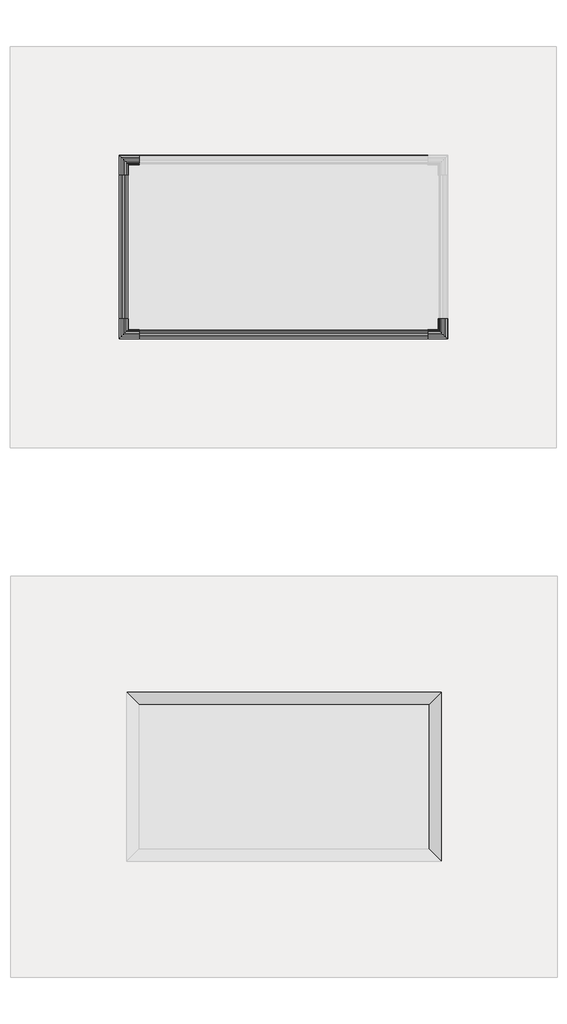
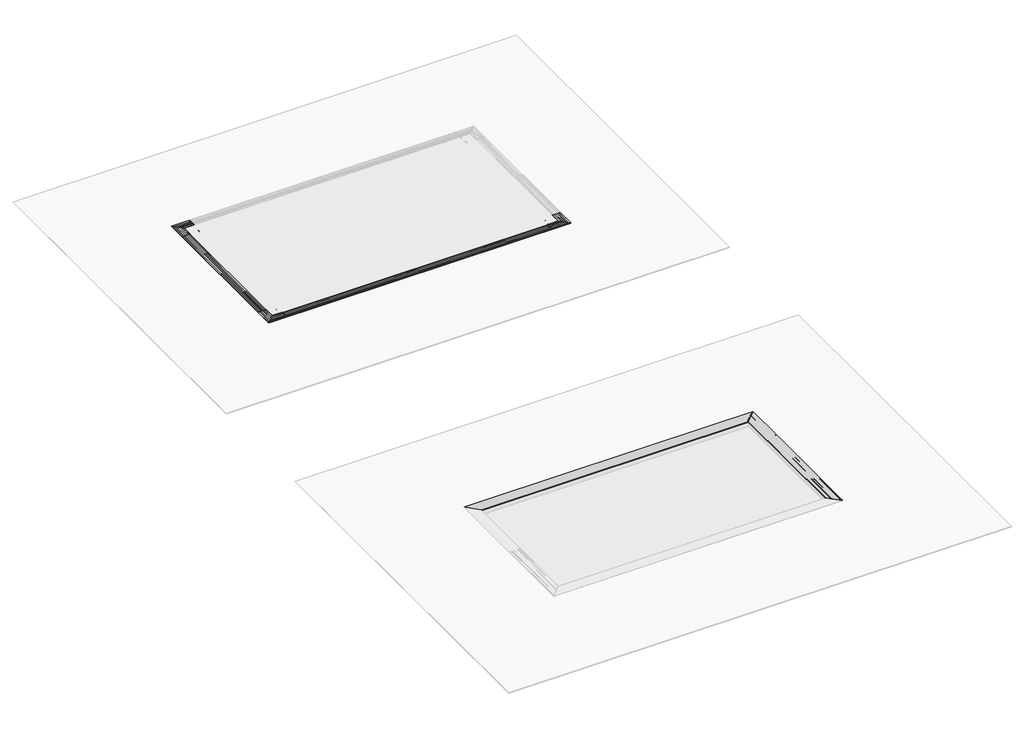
# One storey, part 3 of 8: 25 proxies.
"""IFC4 building model written with IfcOpenShell, lengths in millimetres."""

from ifc_helpers import new_model, si_unit, point, frame, frame_2d, origin, place, context, project, spatial, polyline, circle_curve, trimmed, segment, composite_curve, outline, extrude, faceted_brep, transform, mapped, element, save
from components import roca_polar_33x4cm_fa50347c, roca_polar_33x4cm_adeb31d8, roca_polar_33x4cm_aab84ab9, roca_polar_33x4cm_158b5dbd, roca_polar_33x4cm_2f643e7a, roca_polar_33x4cm_c740a98f, roca_polar_33x4cm_80985e4a, roca_polar_4x4cm_b0f7cce5, roca_polar_angulo_33x33cm_rejilla_24_5x33cm_6b5bcf94

model = new_model("IFC4")

# Units and contexts
model_context = context("Model", 3, world=origin())
ifc_project = project(units=[si_unit("LENGTHUNIT", "METRE", prefix="MILLI")], contexts=[model_context])

# Site, building, storey
site = spatial("IfcSite", under=ifc_project)
building = spatial("IfcBuilding", under=site)
storey = spatial("IfcBuildingStorey", under=building, Name="EXAGRES_Serie ROCA POLAR_Piscinas_ejemplo", Elevation=14000.0)

# Proxies
placement = place(None, origin())
element("IfcBuildingElementProxy", 1, Name="Wall Sweeps", at=placement, inside=storey, context=model_context, shape_type="SweptSolid", body=[
    extrude(outline(polyline([(-5317.8185886, 13800.0), (-5127.8185886, 13800.0), (-5127.8185886, 14000.0), (-5097.8185886, 14000.0), (-5097.8185886, 13750.0), (-5347.8185886, 13750.0), (-5347.8185886, 14000.0), (-5317.8185886, 14000.0), (-5317.8185886, 13800.0)])), frame((-11634.1797103, 0.0, 0.0), z_axis=(1.0, 0.0, 0.0), x_axis=(0.0, 1.0, 0.0)), (0.0, 0.0, 1.0), 7952.2),
])
element("IfcBuildingElementProxy", 2, Name="Wall Sweeps", at=placement, inside=storey, context=model_context, shape_type="SweptSolid", body=[
    extrude(outline(polyline([(-9937.8185886, 13800.0), (-9937.8185886, 14000.0), (-9907.8185886, 14000.0), (-9907.8185886, 13750.0), (-10157.8185886, 13750.0), (-10157.8185886, 14000.0), (-10127.8185886, 14000.0), (-10127.8185886, 13800.0), (-9937.8185886, 13800.0)])), frame((-11634.1797103, 0.0, 0.0), z_axis=(1.0, 0.0, 0.0), x_axis=(0.0, 1.0, 0.0)), (0.0, 0.0, 1.0), 7952.2),
])
element("IfcBuildingElementProxy", 3, Name="Wall Sweeps", at=placement, inside=storey, context=model_context, shape_type="SweptSolid", body=[
    extrude(outline(composite_curve([segment(trimmed(circle_curve(frame_2d((-10107.8185886, 14000.0)), 15.0), [point((-10107.8185886, 14015.0))], [point((-10122.8185886, 14000.0))], True, "CARTESIAN"), True, "CONTINUOUS"), segment(polyline([(-10122.8185886, 14000.0), (-10152.8185886, 14000.0), (-10152.8185886, 14011.0), (-10130.3185886, 14011.0), (-10130.3185886, 14019.0), (-10148.8185886, 14019.0), (-10148.8185886, 14030.0), (-10109.3185886, 14030.0), (-10109.3185886, 14025.0), (-10101.3185886, 14025.0), (-10101.3185886, 14030.0), (-10061.8185886, 14030.0), (-10062.8185886, 14019.0), (-10067.8185886, 14019.0), (-10067.8185886, 14011.0), (-10047.8185886, 14011.0), (-10047.8185886, 14019.0), (-10052.8185886, 14019.0), (-10053.8185886, 14030.0), (-10014.3185886, 14030.0), (-10014.3185886, 14025.0), (-10006.3185886, 14025.0), (-10006.3185886, 14030.0), (-9966.8185886, 14030.0), (-9967.8185886, 14019.0), (-9972.8185886, 14019.0), (-9972.8185886, 14011.0), (-9952.8185886, 14011.0), (-9952.8185886, 14019.0), (-9957.8185886, 14019.0), (-9958.8185886, 14030.0), (-9919.3185886, 14030.0), (-9912.8185886, 14015.0), (-9912.8185886, 14000.0), (-9924.8185886, 14000.0), (-9924.8185886, 14011.0)]), True, "CONTINUOUS"), segment(trimmed(circle_curve(frame_2d((-9928.5685886, 14011.0)), 3.75), [point((-9924.8185886, 14011.0))], [point((-9932.3185886, 14011.0))], True, "CARTESIAN"), True, "CONTINUOUS"), segment(polyline([(-9932.3185886, 14011.0), (-9932.3185886, 14000.0), (-9992.8185886, 14000.0)]), True, "CONTINUOUS"), segment(trimmed(circle_curve(frame_2d((-10007.8185886, 14000.0)), 15.0), [point((-9992.8185886, 14000.0))], [point((-10007.8185886, 14015.0))], True, "CARTESIAN"), True, "CONTINUOUS"), segment(polyline([(-10007.8185886, 14015.0), (-10012.8185886, 14015.0)]), True, "CONTINUOUS"), segment(trimmed(circle_curve(frame_2d((-10012.8185886, 14000.0)), 15.0), [point((-10012.8185886, 14015.0))], [point((-10027.8185886, 14000.0))], True, "CARTESIAN"), True, "CONTINUOUS"), segment(polyline([(-10027.8185886, 14000.0), (-10087.8185886, 14000.0)]), True, "CONTINUOUS"), segment(trimmed(circle_curve(frame_2d((-10102.8185886, 14000.0)), 15.0), [point((-10087.8185886, 14000.0))], [point((-10102.8185886, 14015.0))], True, "CARTESIAN"), True, "CONTINUOUS"), segment(polyline([(-10102.8185886, 14015.0), (-10107.8185886, 14015.0)]), True, "CONTINUOUS")], self_intersect=False)), frame((-11634.1797103, 0.0, 0.0), z_axis=(1.0, 0.0, 0.0), x_axis=(0.0, 1.0, 0.0)), (0.0, 0.0, 1.0), 7952.2),
])
element("IfcBuildingElementProxy", 4, Name="Wall Sweeps", at=placement, inside=storey, context=model_context, shape_type="SweptSolid", body=[
    extrude(outline(polyline([(-9657.8185886, 13546.2592037), (-9857.8185886, 13546.2592037), (-10157.8185886, 13644.7108891), (-10157.8185886, 13750.0), (-9907.8185886, 13750.0), (-9907.8185886, 14000.0), (-9657.8185886, 14000.0), (-9657.8185886, 13546.2592037)])), frame((-11634.1797103, 0.0, 0.0), z_axis=(1.0, 0.0, 0.0), x_axis=(0.0, 1.0, 0.0)), (0.0, 0.0, 1.0), 7952.2),
])
element("IfcBuildingElementProxy", 5, Name="Wall Sweeps", at=placement, inside=storey, context=model_context, shape_type="SweptSolid", body=[
    extrude(outline(polyline([(13800.0, -11968.0797103), (13800.0, -12158.0797103), (14000.0, -12158.0797103), (14000.0, -12188.0797103), (13750.0, -12188.0797103), (13750.0, -11938.0797103), (14000.0, -11938.0797103), (14000.0, -11968.0797103), (13800.0, -11968.0797103)])), frame((0.0, -9603.9185886, 0.0), z_axis=(0.0, 1.0, 0.0), x_axis=(0.0, 0.0, 1.0)), (0.0, 0.0, 1.0), 3952.2),
])
element("IfcBuildingElementProxy", 6, Name="Wall Sweeps", at=placement, inside=storey, context=model_context, shape_type="SweptSolid", body=[
    extrude(outline(composite_curve([segment(polyline([(14015.0, -12138.0797103), (14015.0, -12133.0797103)]), True, "CONTINUOUS"), segment(trimmed(circle_curve(frame_2d((14000.0, -12133.0797103)), 15.0), [point((14015.0, -12133.0797103))], [point((14000.0, -12118.0797103))], True, "CARTESIAN"), True, "CONTINUOUS"), segment(polyline([(14000.0, -12118.0797103), (14000.0, -12058.0797103)]), True, "CONTINUOUS"), segment(trimmed(circle_curve(frame_2d((14000.0, -12043.0797103)), 15.0), [point((14000.0, -12058.0797103))], [point((14015.0, -12043.0797103))], True, "CARTESIAN"), True, "CONTINUOUS"), segment(polyline([(14015.0, -12043.0797103), (14015.0, -12038.0797103)]), True, "CONTINUOUS"), segment(trimmed(circle_curve(frame_2d((14000.0, -12038.0797103)), 15.0), [point((14015.0, -12038.0797103))], [point((14000.0, -12023.0797103))], True, "CARTESIAN"), True, "CONTINUOUS"), segment(polyline([(14000.0, -12023.0797103), (14000.0, -11962.5797103), (14011.0, -11962.5797103)]), True, "CONTINUOUS"), segment(trimmed(circle_curve(frame_2d((14011.0, -11958.8297103)), 3.75), [point((14011.0, -11962.5797103))], [point((14011.0, -11955.0797103))], True, "CARTESIAN"), True, "CONTINUOUS"), segment(polyline([(14011.0, -11955.0797103), (14000.0, -11955.0797103), (14000.0, -11943.0797103), (14015.0, -11943.0797103), (14030.0, -11949.5797103), (14030.0, -11989.0797103), (14019.0, -11988.0797103), (14019.0, -11983.0797103), (14011.0, -11983.0797103), (14011.0, -12003.0797103), (14019.0, -12003.0797103), (14019.0, -11998.0797103), (14030.0, -11997.0797103), (14030.0, -12036.5797103), (14025.0, -12036.5797103), (14025.0, -12044.5797103), (14030.0, -12044.5797103), (14030.0, -12084.0797103), (14019.0, -12083.0797103), (14019.0, -12078.0797103), (14011.0, -12078.0797103), (14011.0, -12098.0797103), (14019.0, -12098.0797103), (14019.0, -12093.0797103), (14030.0, -12092.0797103), (14030.0, -12131.5797103), (14025.0, -12131.5797103), (14025.0, -12139.5797103), (14030.0, -12139.5797103), (14030.0, -12179.0797103), (14019.0, -12179.0797103), (14019.0, -12160.5797103), (14011.0, -12160.5797103), (14011.0, -12183.0797103), (14000.0, -12183.0797103), (14000.0, -12153.0797103)]), True, "CONTINUOUS"), segment(trimmed(circle_curve(frame_2d((14000.0, -12138.0797103)), 15.0), [point((14000.0, -12153.0797103))], [point((14015.0, -12138.0797103))], True, "CARTESIAN"), True, "CONTINUOUS")], self_intersect=False)), frame((0.0, -9603.9185886, 0.0), z_axis=(0.0, 1.0, 0.0), x_axis=(0.0, 0.0, 1.0)), (0.0, 0.0, 1.0), 3952.2),
])
element("IfcBuildingElementProxy", 7, Name="Wall Sweeps", at=placement, inside=storey, context=model_context, shape_type="SweptSolid", body=[
    extrude(outline(polyline([(13546.2592037, -11688.0797103), (14000.0, -11688.0797103), (14000.0, -11938.0797103), (13750.0, -11938.0797103), (13750.0, -12188.0797103), (13644.7108891, -12188.0797103), (13546.2592037, -11888.0797103), (13546.2592037, -11688.0797103)])), frame((0.0, -9603.9185886, 0.0), z_axis=(0.0, 1.0, 0.0), x_axis=(0.0, 0.0, 1.0)), (0.0, 0.0, 1.0), 3952.2),
])
element("IfcBuildingElementProxy", 8, Name="Wall Sweeps", at=placement, inside=storey, context=model_context, shape_type="Brep", body=[
    faceted_brep([(-11653.0573251, -20223.0914606, 14000.0), (-11640.0573251, -20236.0914606, 14000.0), (-11640.0573251, -20236.0914606, 14033.0), (-11970.0573251, -19906.0914606, 14033.0), (-11970.0573251, -19906.0914606, 14021.0), (-11964.0573251, -19912.0914606, 14021.0), (-11964.0573251, -19912.0914606, 14022.0), (-11960.0573251, -19916.0914606, 14022.0), (-11960.0573251, -19916.0914606, 14021.0), (-11954.0573251, -19922.0914606, 14021.0), (-11954.0573251, -19922.0914606, 14022.0), (-11950.0573251, -19926.0914606, 14022.0), (-11950.0573251, -19926.0914606, 14021.0), (-11944.0573251, -19932.0914606, 14021.0), (-11944.0573251, -19932.0914606, 14022.0), (-11940.0573251, -19936.0914606, 14022.0), (-11940.0573251, -19936.0914606, 14021.0), (-11934.0573251, -19942.0914606, 14021.0), (-11934.0573251, -19942.0914606, 14022.0), (-11930.0573251, -19946.0914606, 14022.0), (-11930.0573251, -19946.0914606, 14021.0), (-11924.0573251, -19952.0914606, 14021.0), (-11924.0573251, -19952.0914606, 14022.0), (-11920.0573251, -19956.0914606, 14022.0), (-11920.0573251, -19956.0914606, 14021.0), (-11914.0573251, -19962.0914606, 14021.0), (-11914.0573251, -19962.0914606, 14022.0), (-11910.0573251, -19966.0914606, 14022.0), (-11910.0573251, -19966.0914606, 14021.0), (-11904.0573251, -19972.0914606, 14021.0), (-11904.0573251, -19972.0914606, 14022.0), (-11900.0573251, -19976.0914606, 14022.0), (-11900.0573251, -19976.0914606, 14021.0), (-11894.0573251, -19982.0914606, 14021.0), (-11894.0573251, -19982.0914606, 14022.0), (-11890.0573251, -19986.0914606, 14022.0), (-11890.0573251, -19986.0914606, 14021.0), (-11884.0573251, -19992.0914606, 14021.0), (-11884.0573251, -19992.0914606, 14022.0), (-11880.0573251, -19996.0914606, 14022.0), (-11880.0573251, -19996.0914606, 14021.0), (-11874.0573251, -20002.0914606, 14021.0), (-11874.0573251, -20002.0914606, 14022.0), (-11870.0573251, -20006.0914606, 14022.0), (-11870.0573251, -20006.0914606, 14021.0), (-11864.0573251, -20012.0914606, 14021.0), (-11864.0573251, -20012.0914606, 14022.0), (-11860.0573251, -20016.0914606, 14022.0), (-11860.0573251, -20016.0914606, 14021.0), (-11854.0573251, -20022.0914606, 14021.0), (-11854.0573251, -20022.0914606, 14022.0), (-11850.0573251, -20026.0914606, 14022.0), (-11850.0573251, -20026.0914606, 14021.0), (-11844.0573251, -20032.0914606, 14021.0), (-11844.0573251, -20032.0914606, 14022.0), (-11840.0573251, -20036.0914606, 14022.0), (-11840.0573251, -20036.0914606, 14021.0), (-11834.0573251, -20042.0914606, 14021.0), (-11834.0573251, -20042.0914606, 14022.0), (-11830.0573251, -20046.0914606, 14022.0), (-11830.0573251, -20046.0914606, 14021.0), (-11824.0573251, -20052.0914606, 14021.0), (-11824.0573251, -20052.0914606, 14022.0), (-11820.0573251, -20056.0914606, 14022.0), (-11820.0573251, -20056.0914606, 14021.0), (-11814.0573251, -20062.0914606, 14021.0), (-11814.0573251, -20062.0914606, 14022.0), (-11810.0573251, -20066.0914606, 14022.0), (-11810.0573251, -20066.0914606, 14021.0), (-11804.0573251, -20072.0914606, 14021.0), (-11804.0573251, -20072.0914606, 14022.0), (-11800.0573251, -20076.0914606, 14022.0), (-11800.0573251, -20076.0914606, 14021.0), (-11794.0573251, -20082.0914606, 14021.0), (-11794.0573251, -20082.0914606, 14022.0), (-11790.0573251, -20086.0914606, 14022.0), (-11790.0573251, -20086.0914606, 14021.0), (-11784.0573251, -20092.0914606, 14021.0), (-11784.0573251, -20092.0914606, 14022.0), (-11780.0573251, -20096.0914606, 14022.0), (-11780.0573251, -20096.0914606, 14021.0), (-11774.0573251, -20102.0914606, 14021.0), (-11774.0573251, -20102.0914606, 14022.0), (-11770.0573251, -20106.0914606, 14022.0), (-11770.0573251, -20106.0914606, 14021.0), (-11764.0573251, -20112.0914606, 14021.0), (-11764.0573251, -20112.0914606, 14022.0), (-11760.0573251, -20116.0914606, 14022.0), (-11760.0573251, -20116.0914606, 14021.0), (-11754.0573251, -20122.0914606, 14021.0), (-11754.0573251, -20122.0914606, 14022.0), (-11750.0573251, -20126.0914606, 14022.0), (-11750.0573251, -20126.0914606, 14021.0), (-11744.0573251, -20132.0914606, 14021.0), (-11744.0573251, -20132.0914606, 14022.0), (-11740.0573251, -20136.0914606, 14022.0), (-11740.0573251, -20136.0914606, 14021.0), (-11734.0573251, -20142.0914606, 14021.0), (-11734.0573251, -20142.0914606, 14022.0), (-11730.0573251, -20146.0914606, 14022.0), (-11730.0573251, -20146.0914606, 14021.0), (-11724.0573251, -20152.0914606, 14021.0), (-11724.0573251, -20152.0914606, 14022.0), (-11720.0573251, -20156.0914606, 14022.0), (-11720.0573251, -20156.0914606, 14021.0), (-11714.0573251, -20162.0914606, 14021.0), (-11714.0573251, -20162.0914606, 14022.0), (-11710.0573251, -20166.0914606, 14022.0), (-11710.0573251, -20166.0914606, 14021.0), (-11704.0573251, -20172.0914606, 14021.0), (-11704.0573251, -20172.0914606, 14022.0), (-11700.0573251, -20176.0914606, 14022.0), (-11700.0573251, -20176.0914606, 14021.0), (-11694.0573251, -20182.0914606, 14021.0), (-11694.0573251, -20182.0914606, 14022.0), (-11690.0573251, -20186.0914606, 14022.0), (-11690.0573251, -20186.0914606, 14021.0), (-11684.0573251, -20192.0914606, 14021.0), (-11684.0573251, -20192.0914606, 14022.0), (-11680.0573251, -20196.0914606, 14022.0), (-11680.0573251, -20196.0914606, 14021.0), (-11674.0573251, -20202.0914606, 14021.0), (-11674.0573251, -20202.0914606, 14022.0), (-11670.0573251, -20206.0914606, 14022.0), (-11670.0573251, -20206.0914606, 14021.0), (-11664.0573251, -20212.0914606, 14021.0), (-11664.0573251, -20212.0914606, 14022.0), (-11660.0573251, -20216.0914606, 14022.0), (-11660.0573251, -20216.0914606, 14021.0), (-11653.0573251, -20223.0914606, 14021.0), (-11653.0573251, -20223.0914606, 14014.0), (-11652.0573251, -20224.0914606, 14014.0), (-11652.0573251, -20224.0914606, 14008.0), (-11653.0573251, -20223.0914606, 14008.0), (-3627.0573251, -20223.0914606, 14000.0), (-3627.0573251, -20223.0914606, 14008.0), (-3628.0573251, -20224.0914606, 14008.0), (-3628.0573251, -20224.0914606, 14014.0), (-3627.0573251, -20223.0914606, 14014.0), (-3627.0573251, -20223.0914606, 14021.0), (-3620.0573251, -20216.0914606, 14021.0), (-3620.0573251, -20216.0914606, 14022.0), (-3616.0573251, -20212.0914606, 14022.0), (-3616.0573251, -20212.0914606, 14021.0), (-3610.0573251, -20206.0914606, 14021.0), (-3610.0573251, -20206.0914606, 14022.0), (-3606.0573251, -20202.0914606, 14022.0), (-3606.0573251, -20202.0914606, 14021.0), (-3600.0573251, -20196.0914606, 14021.0), (-3600.0573251, -20196.0914606, 14022.0), (-3596.0573251, -20192.0914606, 14022.0), (-3596.0573251, -20192.0914606, 14021.0), (-3590.0573251, -20186.0914606, 14021.0), (-3590.0573251, -20186.0914606, 14022.0), (-3586.0573251, -20182.0914606, 14022.0), (-3586.0573251, -20182.0914606, 14021.0), (-3580.0573251, -20176.0914606, 14021.0), (-3580.0573251, -20176.0914606, 14022.0), (-3576.0573251, -20172.0914606, 14022.0), (-3576.0573251, -20172.0914606, 14021.0), (-3570.0573251, -20166.0914606, 14021.0), (-3570.0573251, -20166.0914606, 14022.0), (-3566.0573251, -20162.0914606, 14022.0), (-3566.0573251, -20162.0914606, 14021.0), (-3560.0573251, -20156.0914606, 14021.0), (-3560.0573251, -20156.0914606, 14022.0), (-3556.0573251, -20152.0914606, 14022.0), (-3556.0573251, -20152.0914606, 14021.0), (-3550.0573251, -20146.0914606, 14021.0), (-3550.0573251, -20146.0914606, 14022.0), (-3546.0573251, -20142.0914606, 14022.0), (-3546.0573251, -20142.0914606, 14021.0), (-3540.0573251, -20136.0914606, 14021.0), (-3540.0573251, -20136.0914606, 14022.0), (-3536.0573251, -20132.0914606, 14022.0), (-3536.0573251, -20132.0914606, 14021.0), (-3530.0573251, -20126.0914606, 14021.0), (-3530.0573251, -20126.0914606, 14022.0), (-3526.0573251, -20122.0914606, 14022.0), (-3526.0573251, -20122.0914606, 14021.0), (-3520.0573251, -20116.0914606, 14021.0), (-3520.0573251, -20116.0914606, 14022.0), (-3516.0573251, -20112.0914606, 14022.0), (-3516.0573251, -20112.0914606, 14021.0), (-3510.0573251, -20106.0914606, 14021.0), (-3510.0573251, -20106.0914606, 14022.0), (-3506.0573251, -20102.0914606, 14022.0), (-3506.0573251, -20102.0914606, 14021.0), (-3500.0573251, -20096.0914606, 14021.0), (-3500.0573251, -20096.0914606, 14022.0), (-3496.0573251, -20092.0914606, 14022.0), (-3496.0573251, -20092.0914606, 14021.0), (-3490.0573251, -20086.0914606, 14021.0), (-3490.0573251, -20086.0914606, 14022.0), (-3486.0573251, -20082.0914606, 14022.0), (-3486.0573251, -20082.0914606, 14021.0), (-3480.0573251, -20076.0914606, 14021.0), (-3480.0573251, -20076.0914606, 14022.0), (-3476.0573251, -20072.0914606, 14022.0), (-3476.0573251, -20072.0914606, 14021.0), (-3470.0573251, -20066.0914606, 14021.0), (-3470.0573251, -20066.0914606, 14022.0), (-3466.0573251, -20062.0914606, 14022.0), (-3466.0573251, -20062.0914606, 14021.0), (-3460.0573251, -20056.0914606, 14021.0), (-3460.0573251, -20056.0914606, 14022.0), (-3456.0573251, -20052.0914606, 14022.0), (-3456.0573251, -20052.0914606, 14021.0), (-3450.0573251, -20046.0914606, 14021.0), (-3450.0573251, -20046.0914606, 14022.0), (-3446.0573251, -20042.0914606, 14022.0), (-3446.0573251, -20042.0914606, 14021.0), (-3440.0573251, -20036.0914606, 14021.0), (-3440.0573251, -20036.0914606, 14022.0), (-3436.0573251, -20032.0914606, 14022.0), (-3436.0573251, -20032.0914606, 14021.0), (-3430.0573251, -20026.0914606, 14021.0), (-3430.0573251, -20026.0914606, 14022.0), (-3426.0573251, -20022.0914606, 14022.0), (-3426.0573251, -20022.0914606, 14021.0), (-3420.0573251, -20016.0914606, 14021.0), (-3420.0573251, -20016.0914606, 14022.0), (-3416.0573251, -20012.0914606, 14022.0), (-3416.0573251, -20012.0914606, 14021.0), (-3410.0573251, -20006.0914606, 14021.0), (-3410.0573251, -20006.0914606, 14022.0), (-3406.0573251, -20002.0914606, 14022.0), (-3406.0573251, -20002.0914606, 14021.0), (-3400.0573251, -19996.0914606, 14021.0), (-3400.0573251, -19996.0914606, 14022.0), (-3396.0573251, -19992.0914606, 14022.0), (-3396.0573251, -19992.0914606, 14021.0), (-3390.0573251, -19986.0914606, 14021.0), (-3390.0573251, -19986.0914606, 14022.0), (-3386.0573251, -19982.0914606, 14022.0), (-3386.0573251, -19982.0914606, 14021.0), (-3380.0573251, -19976.0914606, 14021.0), (-3380.0573251, -19976.0914606, 14022.0), (-3376.0573251, -19972.0914606, 14022.0), (-3376.0573251, -19972.0914606, 14021.0), (-3370.0573251, -19966.0914606, 14021.0), (-3370.0573251, -19966.0914606, 14022.0), (-3366.0573251, -19962.0914606, 14022.0), (-3366.0573251, -19962.0914606, 14021.0), (-3360.0573251, -19956.0914606, 14021.0), (-3360.0573251, -19956.0914606, 14022.0), (-3356.0573251, -19952.0914606, 14022.0), (-3356.0573251, -19952.0914606, 14021.0), (-3350.0573251, -19946.0914606, 14021.0), (-3350.0573251, -19946.0914606, 14022.0), (-3346.0573251, -19942.0914606, 14022.0), (-3346.0573251, -19942.0914606, 14021.0), (-3340.0573251, -19936.0914606, 14021.0), (-3340.0573251, -19936.0914606, 14022.0), (-3336.0573251, -19932.0914606, 14022.0), (-3336.0573251, -19932.0914606, 14021.0), (-3330.0573251, -19926.0914606, 14021.0), (-3330.0573251, -19926.0914606, 14022.0), (-3326.0573251, -19922.0914606, 14022.0), (-3326.0573251, -19922.0914606, 14021.0), (-3320.0573251, -19916.0914606, 14021.0), (-3320.0573251, -19916.0914606, 14022.0), (-3316.0573251, -19912.0914606, 14022.0), (-3316.0573251, -19912.0914606, 14021.0), (-3310.0573251, -19906.0914606, 14021.0), (-3310.0573251, -19906.0914606, 14033.0), (-3640.0573251, -20236.0914606, 14033.0), (-3640.0573251, -20236.0914606, 14000.0)], [[[0, 1, 2, 3, 4, 5, 6, 7, 8, 9, 10, 11, 12, 13, 14, 15, 16, 17, 18, 19, 20, 21, 22, 23, 24, 25, 26, 27, 28, 29, 30, 31, 32, 33, 34, 35, 36, 37, 38, 39, 40, 41, 42, 43, 44, 45, 46, 47, 48, 49, 50, 51, 52, 53, 54, 55, 56, 57, 58, 59, 60, 61, 62, 63, 64, 65, 66, 67, 68, 69, 70, 71, 72, 73, 74, 75, 76, 77, 78, 79, 80, 81, 82, 83, 84, 85, 86, 87, 88, 89, 90, 91, 92, 93, 94, 95, 96, 97, 98, 99, 100, 101, 102, 103, 104, 105, 106, 107, 108, 109, 110, 111, 112, 113, 114, 115, 116, 117, 118, 119, 120, 121, 122, 123, 124, 125, 126, 127, 128, 129, 130, 131, 132, 133]], [[134, 135, 136, 137, 138, 139, 140, 141, 142, 143, 144, 145, 146, 147, 148, 149, 150, 151, 152, 153, 154, 155, 156, 157, 158, 159, 160, 161, 162, 163, 164, 165, 166, 167, 168, 169, 170, 171, 172, 173, 174, 175, 176, 177, 178, 179, 180, 181, 182, 183, 184, 185, 186, 187, 188, 189, 190, 191, 192, 193, 194, 195, 196, 197, 198, 199, 200, 201, 202, 203, 204, 205, 206, 207, 208, 209, 210, 211, 212, 213, 214, 215, 216, 217, 218, 219, 220, 221, 222, 223, 224, 225, 226, 227, 228, 229, 230, 231, 232, 233, 234, 235, 236, 237, 238, 239, 240, 241, 242, 243, 244, 245, 246, 247, 248, 249, 250, 251, 252, 253, 254, 255, 256, 257, 258, 259, 260, 261, 262, 263, 264, 265, 266, 267]], [[1, 0, 134, 267]], [[2, 1, 267, 266]], [[3, 2, 266, 265]], [[4, 3, 265, 264]], [[5, 4, 264, 263]], [[6, 5, 263, 262]], [[7, 6, 262, 261]], [[8, 7, 261, 260]], [[9, 8, 260, 259]], [[10, 9, 259, 258]], [[11, 10, 258, 257]], [[12, 11, 257, 256]], [[13, 12, 256, 255]], [[14, 13, 255, 254]], [[15, 14, 254, 253]], [[16, 15, 253, 252]], [[17, 16, 252, 251]], [[18, 17, 251, 250]], [[19, 18, 250, 249]], [[20, 19, 249, 248]], [[21, 20, 248, 247]], [[22, 21, 247, 246]], [[23, 22, 246, 245]], [[24, 23, 245, 244]], [[25, 24, 244, 243]], [[26, 25, 243, 242]], [[27, 26, 242, 241]], [[28, 27, 241, 240]], [[29, 28, 240, 239]], [[30, 29, 239, 238]], [[31, 30, 238, 237]], [[32, 31, 237, 236]], [[33, 32, 236, 235]], [[34, 33, 235, 234]], [[35, 34, 234, 233]], [[36, 35, 233, 232]], [[37, 36, 232, 231]], [[38, 37, 231, 230]], [[39, 38, 230, 229]], [[40, 39, 229, 228]], [[41, 40, 228, 227]], [[42, 41, 227, 226]], [[43, 42, 226, 225]], [[44, 43, 225, 224]], [[45, 44, 224, 223]], [[46, 45, 223, 222]], [[47, 46, 222, 221]], [[48, 47, 221, 220]], [[49, 48, 220, 219]], [[50, 49, 219, 218]], [[51, 50, 218, 217]], [[52, 51, 217, 216]], [[53, 52, 216, 215]], [[54, 53, 215, 214]], [[55, 54, 214, 213]], [[56, 55, 213, 212]], [[57, 56, 212, 211]], [[58, 57, 211, 210]], [[59, 58, 210, 209]], [[60, 59, 209, 208]], [[61, 60, 208, 207]], [[62, 61, 207, 206]], [[63, 62, 206, 205]], [[64, 63, 205, 204]], [[65, 64, 204, 203]], [[66, 65, 203, 202]], [[67, 66, 202, 201]], [[68, 67, 201, 200]], [[69, 68, 200, 199]], [[70, 69, 199, 198]], [[71, 70, 198, 197]], [[72, 71, 197, 196]], [[73, 72, 196, 195]], [[74, 73, 195, 194]], [[75, 74, 194, 193]], [[76, 75, 193, 192]], [[77, 76, 192, 191]], [[78, 77, 191, 190]], [[79, 78, 190, 189]], [[80, 79, 189, 188]], [[81, 80, 188, 187]], [[82, 81, 187, 186]], [[83, 82, 186, 185]], [[84, 83, 185, 184]], [[85, 84, 184, 183]], [[86, 85, 183, 182]], [[87, 86, 182, 181]], [[88, 87, 181, 180]], [[89, 88, 180, 179]], [[90, 89, 179, 178]], [[91, 90, 178, 177]], [[92, 91, 177, 176]], [[93, 92, 176, 175]], [[94, 93, 175, 174]], [[95, 94, 174, 173]], [[96, 95, 173, 172]], [[97, 96, 172, 171]], [[98, 97, 171, 170]], [[99, 98, 170, 169]], [[100, 99, 169, 168]], [[101, 100, 168, 167]], [[102, 101, 167, 166]], [[103, 102, 166, 165]], [[104, 103, 165, 164]], [[105, 104, 164, 163]], [[106, 105, 163, 162]], [[107, 106, 162, 161]], [[108, 107, 161, 160]], [[109, 108, 160, 159]], [[110, 109, 159, 158]], [[111, 110, 158, 157]], [[112, 111, 157, 156]], [[113, 112, 156, 155]], [[114, 113, 155, 154]], [[115, 114, 154, 153]], [[116, 115, 153, 152]], [[117, 116, 152, 151]], [[118, 117, 151, 150]], [[119, 118, 150, 149]], [[120, 119, 149, 148]], [[121, 120, 148, 147]], [[122, 121, 147, 146]], [[123, 122, 146, 145]], [[124, 123, 145, 144]], [[125, 124, 144, 143]], [[126, 125, 143, 142]], [[127, 126, 142, 141]], [[128, 127, 141, 140]], [[129, 128, 140, 139]], [[130, 129, 139, 138]], [[131, 130, 138, 137]], [[132, 131, 137, 136]], [[133, 132, 136, 135]], [[0, 133, 135, 134]]]),
])
element("IfcBuildingElementProxy", 9, Name="Wall Sweeps", at=placement, inside=storey, context=model_context, shape_type="SweptSolid", body=[
    extrude(outline(polyline([(-11655.0573251, -20221.0914606), (-11960.0573251, -19916.0914606), (-3320.0573251, -19916.0914606), (-3625.0573251, -20221.0914606), (-11655.0573251, -20221.0914606)])), frame((0.0, 0.0, 13818.74), z_axis=(0.0, 0.0, 1.0), x_axis=(1.0, 0.0, 0.0)), (0.0, 0.0, 1.0), 200.0),
])
element("IfcBuildingElementProxy", 10, Name="Wall Sweeps", at=placement, inside=storey, context=model_context, shape_type="Brep", body=[
    faceted_brep([(-3627.0573251, -20223.0914606, 14000.0), (-3640.0573251, -20236.0914606, 14000.0), (-3640.0573251, -20236.0914606, 14033.0), (-3310.0573251, -19906.0914606, 14033.0), (-3310.0573251, -19906.0914606, 14021.0), (-3316.0573251, -19912.0914606, 14021.0), (-3316.0573251, -19912.0914606, 14022.0), (-3320.0573251, -19916.0914606, 14022.0), (-3320.0573251, -19916.0914606, 14021.0), (-3326.0573251, -19922.0914606, 14021.0), (-3326.0573251, -19922.0914606, 14022.0), (-3330.0573251, -19926.0914606, 14022.0), (-3330.0573251, -19926.0914606, 14021.0), (-3336.0573251, -19932.0914606, 14021.0), (-3336.0573251, -19932.0914606, 14022.0), (-3340.0573251, -19936.0914606, 14022.0), (-3340.0573251, -19936.0914606, 14021.0), (-3346.0573251, -19942.0914606, 14021.0), (-3346.0573251, -19942.0914606, 14022.0), (-3350.0573251, -19946.0914606, 14022.0), (-3350.0573251, -19946.0914606, 14021.0), (-3356.0573251, -19952.0914606, 14021.0), (-3356.0573251, -19952.0914606, 14022.0), (-3360.0573251, -19956.0914606, 14022.0), (-3360.0573251, -19956.0914606, 14021.0), (-3366.0573251, -19962.0914606, 14021.0), (-3366.0573251, -19962.0914606, 14022.0), (-3370.0573251, -19966.0914606, 14022.0), (-3370.0573251, -19966.0914606, 14021.0), (-3376.0573251, -19972.0914606, 14021.0), (-3376.0573251, -19972.0914606, 14022.0), (-3380.0573251, -19976.0914606, 14022.0), (-3380.0573251, -19976.0914606, 14021.0), (-3386.0573251, -19982.0914606, 14021.0), (-3386.0573251, -19982.0914606, 14022.0), (-3390.0573251, -19986.0914606, 14022.0), (-3390.0573251, -19986.0914606, 14021.0), (-3396.0573251, -19992.0914606, 14021.0), (-3396.0573251, -19992.0914606, 14022.0), (-3400.0573251, -19996.0914606, 14022.0), (-3400.0573251, -19996.0914606, 14021.0), (-3406.0573251, -20002.0914606, 14021.0), (-3406.0573251, -20002.0914606, 14022.0), (-3410.0573251, -20006.0914606, 14022.0), (-3410.0573251, -20006.0914606, 14021.0), (-3416.0573251, -20012.0914606, 14021.0), (-3416.0573251, -20012.0914606, 14022.0), (-3420.0573251, -20016.0914606, 14022.0), (-3420.0573251, -20016.0914606, 14021.0), (-3426.0573251, -20022.0914606, 14021.0), (-3426.0573251, -20022.0914606, 14022.0), (-3430.0573251, -20026.0914606, 14022.0), (-3430.0573251, -20026.0914606, 14021.0), (-3436.0573251, -20032.0914606, 14021.0), (-3436.0573251, -20032.0914606, 14022.0), (-3440.0573251, -20036.0914606, 14022.0), (-3440.0573251, -20036.0914606, 14021.0), (-3446.0573251, -20042.0914606, 14021.0), (-3446.0573251, -20042.0914606, 14022.0), (-3450.0573251, -20046.0914606, 14022.0), (-3450.0573251, -20046.0914606, 14021.0), (-3456.0573251, -20052.0914606, 14021.0), (-3456.0573251, -20052.0914606, 14022.0), (-3460.0573251, -20056.0914606, 14022.0), (-3460.0573251, -20056.0914606, 14021.0), (-3466.0573251, -20062.0914606, 14021.0), (-3466.0573251, -20062.0914606, 14022.0), (-3470.0573251, -20066.0914606, 14022.0), (-3470.0573251, -20066.0914606, 14021.0), (-3476.0573251, -20072.0914606, 14021.0), (-3476.0573251, -20072.0914606, 14022.0), (-3480.0573251, -20076.0914606, 14022.0), (-3480.0573251, -20076.0914606, 14021.0), (-3486.0573251, -20082.0914606, 14021.0), (-3486.0573251, -20082.0914606, 14022.0), (-3490.0573251, -20086.0914606, 14022.0), (-3490.0573251, -20086.0914606, 14021.0), (-3496.0573251, -20092.0914606, 14021.0), (-3496.0573251, -20092.0914606, 14022.0), (-3500.0573251, -20096.0914606, 14022.0), (-3500.0573251, -20096.0914606, 14021.0), (-3506.0573251, -20102.0914606, 14021.0), (-3506.0573251, -20102.0914606, 14022.0), (-3510.0573251, -20106.0914606, 14022.0), (-3510.0573251, -20106.0914606, 14021.0), (-3516.0573251, -20112.0914606, 14021.0), (-3516.0573251, -20112.0914606, 14022.0), (-3520.0573251, -20116.0914606, 14022.0), (-3520.0573251, -20116.0914606, 14021.0), (-3526.0573251, -20122.0914606, 14021.0), (-3526.0573251, -20122.0914606, 14022.0), (-3530.0573251, -20126.0914606, 14022.0), (-3530.0573251, -20126.0914606, 14021.0), (-3536.0573251, -20132.0914606, 14021.0), (-3536.0573251, -20132.0914606, 14022.0), (-3540.0573251, -20136.0914606, 14022.0), (-3540.0573251, -20136.0914606, 14021.0), (-3546.0573251, -20142.0914606, 14021.0), (-3546.0573251, -20142.0914606, 14022.0), (-3550.0573251, -20146.0914606, 14022.0), (-3550.0573251, -20146.0914606, 14021.0), (-3556.0573251, -20152.0914606, 14021.0), (-3556.0573251, -20152.0914606, 14022.0), (-3560.0573251, -20156.0914606, 14022.0), (-3560.0573251, -20156.0914606, 14021.0), (-3566.0573251, -20162.0914606, 14021.0), (-3566.0573251, -20162.0914606, 14022.0), (-3570.0573251, -20166.0914606, 14022.0), (-3570.0573251, -20166.0914606, 14021.0), (-3576.0573251, -20172.0914606, 14021.0), (-3576.0573251, -20172.0914606, 14022.0), (-3580.0573251, -20176.0914606, 14022.0), (-3580.0573251, -20176.0914606, 14021.0), (-3586.0573251, -20182.0914606, 14021.0), (-3586.0573251, -20182.0914606, 14022.0), (-3590.0573251, -20186.0914606, 14022.0), (-3590.0573251, -20186.0914606, 14021.0), (-3596.0573251, -20192.0914606, 14021.0), (-3596.0573251, -20192.0914606, 14022.0), (-3600.0573251, -20196.0914606, 14022.0), (-3600.0573251, -20196.0914606, 14021.0), (-3606.0573251, -20202.0914606, 14021.0), (-3606.0573251, -20202.0914606, 14022.0), (-3610.0573251, -20206.0914606, 14022.0), (-3610.0573251, -20206.0914606, 14021.0), (-3616.0573251, -20212.0914606, 14021.0), (-3616.0573251, -20212.0914606, 14022.0), (-3620.0573251, -20216.0914606, 14022.0), (-3620.0573251, -20216.0914606, 14021.0), (-3627.0573251, -20223.0914606, 14021.0), (-3627.0573251, -20223.0914606, 14014.0), (-3628.0573251, -20224.0914606, 14014.0), (-3628.0573251, -20224.0914606, 14008.0), (-3627.0573251, -20223.0914606, 14008.0), (-3627.0573251, -24249.0914606, 14000.0), (-3627.0573251, -24249.0914606, 14008.0), (-3628.0573251, -24248.0914606, 14008.0), (-3628.0573251, -24248.0914606, 14014.0), (-3627.0573251, -24249.0914606, 14014.0), (-3627.0573251, -24249.0914606, 14021.0), (-3620.0573251, -24256.0914606, 14021.0), (-3620.0573251, -24256.0914606, 14022.0), (-3616.0573251, -24260.0914606, 14022.0), (-3616.0573251, -24260.0914606, 14021.0), (-3610.0573251, -24266.0914606, 14021.0), (-3610.0573251, -24266.0914606, 14022.0), (-3606.0573251, -24270.0914606, 14022.0), (-3606.0573251, -24270.0914606, 14021.0), (-3600.0573251, -24276.0914606, 14021.0), (-3600.0573251, -24276.0914606, 14022.0), (-3596.0573251, -24280.0914606, 14022.0), (-3596.0573251, -24280.0914606, 14021.0), (-3590.0573251, -24286.0914606, 14021.0), (-3590.0573251, -24286.0914606, 14022.0), (-3586.0573251, -24290.0914606, 14022.0), (-3586.0573251, -24290.0914606, 14021.0), (-3580.0573251, -24296.0914606, 14021.0), (-3580.0573251, -24296.0914606, 14022.0), (-3576.0573251, -24300.0914606, 14022.0), (-3576.0573251, -24300.0914606, 14021.0), (-3570.0573251, -24306.0914606, 14021.0), (-3570.0573251, -24306.0914606, 14022.0), (-3566.0573251, -24310.0914606, 14022.0), (-3566.0573251, -24310.0914606, 14021.0), (-3560.0573251, -24316.0914606, 14021.0), (-3560.0573251, -24316.0914606, 14022.0), (-3556.0573251, -24320.0914606, 14022.0), (-3556.0573251, -24320.0914606, 14021.0), (-3550.0573251, -24326.0914606, 14021.0), (-3550.0573251, -24326.0914606, 14022.0), (-3546.0573251, -24330.0914606, 14022.0), (-3546.0573251, -24330.0914606, 14021.0), (-3540.0573251, -24336.0914606, 14021.0), (-3540.0573251, -24336.0914606, 14022.0), (-3536.0573251, -24340.0914606, 14022.0), (-3536.0573251, -24340.0914606, 14021.0), (-3530.0573251, -24346.0914606, 14021.0), (-3530.0573251, -24346.0914606, 14022.0), (-3526.0573251, -24350.0914606, 14022.0), (-3526.0573251, -24350.0914606, 14021.0), (-3520.0573251, -24356.0914606, 14021.0), (-3520.0573251, -24356.0914606, 14022.0), (-3516.0573251, -24360.0914606, 14022.0), (-3516.0573251, -24360.0914606, 14021.0), (-3510.0573251, -24366.0914606, 14021.0), (-3510.0573251, -24366.0914606, 14022.0), (-3506.0573251, -24370.0914606, 14022.0), (-3506.0573251, -24370.0914606, 14021.0), (-3500.0573251, -24376.0914606, 14021.0), (-3500.0573251, -24376.0914606, 14022.0), (-3496.0573251, -24380.0914606, 14022.0), (-3496.0573251, -24380.0914606, 14021.0), (-3490.0573251, -24386.0914606, 14021.0), (-3490.0573251, -24386.0914606, 14022.0), (-3486.0573251, -24390.0914606, 14022.0), (-3486.0573251, -24390.0914606, 14021.0), (-3480.0573251, -24396.0914606, 14021.0), (-3480.0573251, -24396.0914606, 14022.0), (-3476.0573251, -24400.0914606, 14022.0), (-3476.0573251, -24400.0914606, 14021.0), (-3470.0573251, -24406.0914606, 14021.0), (-3470.0573251, -24406.0914606, 14022.0), (-3466.0573251, -24410.0914606, 14022.0), (-3466.0573251, -24410.0914606, 14021.0), (-3460.0573251, -24416.0914606, 14021.0), (-3460.0573251, -24416.0914606, 14022.0), (-3456.0573251, -24420.0914606, 14022.0), (-3456.0573251, -24420.0914606, 14021.0), (-3450.0573251, -24426.0914606, 14021.0), (-3450.0573251, -24426.0914606, 14022.0), (-3446.0573251, -24430.0914606, 14022.0), (-3446.0573251, -24430.0914606, 14021.0), (-3440.0573251, -24436.0914606, 14021.0), (-3440.0573251, -24436.0914606, 14022.0), (-3436.0573251, -24440.0914606, 14022.0), (-3436.0573251, -24440.0914606, 14021.0), (-3430.0573251, -24446.0914606, 14021.0), (-3430.0573251, -24446.0914606, 14022.0), (-3426.0573251, -24450.0914606, 14022.0), (-3426.0573251, -24450.0914606, 14021.0), (-3420.0573251, -24456.0914606, 14021.0), (-3420.0573251, -24456.0914606, 14022.0), (-3416.0573251, -24460.0914606, 14022.0), (-3416.0573251, -24460.0914606, 14021.0), (-3410.0573251, -24466.0914606, 14021.0), (-3410.0573251, -24466.0914606, 14022.0), (-3406.0573251, -24470.0914606, 14022.0), (-3406.0573251, -24470.0914606, 14021.0), (-3400.0573251, -24476.0914606, 14021.0), (-3400.0573251, -24476.0914606, 14022.0), (-3396.0573251, -24480.0914606, 14022.0), (-3396.0573251, -24480.0914606, 14021.0), (-3390.0573251, -24486.0914606, 14021.0), (-3390.0573251, -24486.0914606, 14022.0), (-3386.0573251, -24490.0914606, 14022.0), (-3386.0573251, -24490.0914606, 14021.0), (-3380.0573251, -24496.0914606, 14021.0), (-3380.0573251, -24496.0914606, 14022.0), (-3376.0573251, -24500.0914606, 14022.0), (-3376.0573251, -24500.0914606, 14021.0), (-3370.0573251, -24506.0914606, 14021.0), (-3370.0573251, -24506.0914606, 14022.0), (-3366.0573251, -24510.0914606, 14022.0), (-3366.0573251, -24510.0914606, 14021.0), (-3360.0573251, -24516.0914606, 14021.0), (-3360.0573251, -24516.0914606, 14022.0), (-3356.0573251, -24520.0914606, 14022.0), (-3356.0573251, -24520.0914606, 14021.0), (-3350.0573251, -24526.0914606, 14021.0), (-3350.0573251, -24526.0914606, 14022.0), (-3346.0573251, -24530.0914606, 14022.0), (-3346.0573251, -24530.0914606, 14021.0), (-3340.0573251, -24536.0914606, 14021.0), (-3340.0573251, -24536.0914606, 14022.0), (-3336.0573251, -24540.0914606, 14022.0), (-3336.0573251, -24540.0914606, 14021.0), (-3330.0573251, -24546.0914606, 14021.0), (-3330.0573251, -24546.0914606, 14022.0), (-3326.0573251, -24550.0914606, 14022.0), (-3326.0573251, -24550.0914606, 14021.0), (-3320.0573251, -24556.0914606, 14021.0), (-3320.0573251, -24556.0914606, 14022.0), (-3316.0573251, -24560.0914606, 14022.0), (-3316.0573251, -24560.0914606, 14021.0), (-3310.0573251, -24566.0914606, 14021.0), (-3310.0573251, -24566.0914606, 14033.0), (-3640.0573251, -24236.0914606, 14033.0), (-3640.0573251, -24236.0914606, 14000.0)], [[[0, 1, 2, 3, 4, 5, 6, 7, 8, 9, 10, 11, 12, 13, 14, 15, 16, 17, 18, 19, 20, 21, 22, 23, 24, 25, 26, 27, 28, 29, 30, 31, 32, 33, 34, 35, 36, 37, 38, 39, 40, 41, 42, 43, 44, 45, 46, 47, 48, 49, 50, 51, 52, 53, 54, 55, 56, 57, 58, 59, 60, 61, 62, 63, 64, 65, 66, 67, 68, 69, 70, 71, 72, 73, 74, 75, 76, 77, 78, 79, 80, 81, 82, 83, 84, 85, 86, 87, 88, 89, 90, 91, 92, 93, 94, 95, 96, 97, 98, 99, 100, 101, 102, 103, 104, 105, 106, 107, 108, 109, 110, 111, 112, 113, 114, 115, 116, 117, 118, 119, 120, 121, 122, 123, 124, 125, 126, 127, 128, 129, 130, 131, 132, 133]], [[134, 135, 136, 137, 138, 139, 140, 141, 142, 143, 144, 145, 146, 147, 148, 149, 150, 151, 152, 153, 154, 155, 156, 157, 158, 159, 160, 161, 162, 163, 164, 165, 166, 167, 168, 169, 170, 171, 172, 173, 174, 175, 176, 177, 178, 179, 180, 181, 182, 183, 184, 185, 186, 187, 188, 189, 190, 191, 192, 193, 194, 195, 196, 197, 198, 199, 200, 201, 202, 203, 204, 205, 206, 207, 208, 209, 210, 211, 212, 213, 214, 215, 216, 217, 218, 219, 220, 221, 222, 223, 224, 225, 226, 227, 228, 229, 230, 231, 232, 233, 234, 235, 236, 237, 238, 239, 240, 241, 242, 243, 244, 245, 246, 247, 248, 249, 250, 251, 252, 253, 254, 255, 256, 257, 258, 259, 260, 261, 262, 263, 264, 265, 266, 267]], [[1, 0, 134, 267]], [[2, 1, 267, 266]], [[3, 2, 266, 265]], [[4, 3, 265, 264]], [[5, 4, 264, 263]], [[6, 5, 263, 262]], [[7, 6, 262, 261]], [[8, 7, 261, 260]], [[9, 8, 260, 259]], [[10, 9, 259, 258]], [[11, 10, 258, 257]], [[12, 11, 257, 256]], [[13, 12, 256, 255]], [[14, 13, 255, 254]], [[15, 14, 254, 253]], [[16, 15, 253, 252]], [[17, 16, 252, 251]], [[18, 17, 251, 250]], [[19, 18, 250, 249]], [[20, 19, 249, 248]], [[21, 20, 248, 247]], [[22, 21, 247, 246]], [[23, 22, 246, 245]], [[24, 23, 245, 244]], [[25, 24, 244, 243]], [[26, 25, 243, 242]], [[27, 26, 242, 241]], [[28, 27, 241, 240]], [[29, 28, 240, 239]], [[30, 29, 239, 238]], [[31, 30, 238, 237]], [[32, 31, 237, 236]], [[33, 32, 236, 235]], [[34, 33, 235, 234]], [[35, 34, 234, 233]], [[36, 35, 233, 232]], [[37, 36, 232, 231]], [[38, 37, 231, 230]], [[39, 38, 230, 229]], [[40, 39, 229, 228]], [[41, 40, 228, 227]], [[42, 41, 227, 226]], [[43, 42, 226, 225]], [[44, 43, 225, 224]], [[45, 44, 224, 223]], [[46, 45, 223, 222]], [[47, 46, 222, 221]], [[48, 47, 221, 220]], [[49, 48, 220, 219]], [[50, 49, 219, 218]], [[51, 50, 218, 217]], [[52, 51, 217, 216]], [[53, 52, 216, 215]], [[54, 53, 215, 214]], [[55, 54, 214, 213]], [[56, 55, 213, 212]], [[57, 56, 212, 211]], [[58, 57, 211, 210]], [[59, 58, 210, 209]], [[60, 59, 209, 208]], [[61, 60, 208, 207]], [[62, 61, 207, 206]], [[63, 62, 206, 205]], [[64, 63, 205, 204]], [[65, 64, 204, 203]], [[66, 65, 203, 202]], [[67, 66, 202, 201]], [[68, 67, 201, 200]], [[69, 68, 200, 199]], [[70, 69, 199, 198]], [[71, 70, 198, 197]], [[72, 71, 197, 196]], [[73, 72, 196, 195]], [[74, 73, 195, 194]], [[75, 74, 194, 193]], [[76, 75, 193, 192]], [[77, 76, 192, 191]], [[78, 77, 191, 190]], [[79, 78, 190, 189]], [[80, 79, 189, 188]], [[81, 80, 188, 187]], [[82, 81, 187, 186]], [[83, 82, 186, 185]], [[84, 83, 185, 184]], [[85, 84, 184, 183]], [[86, 85, 183, 182]], [[87, 86, 182, 181]], [[88, 87, 181, 180]], [[89, 88, 180, 179]], [[90, 89, 179, 178]], [[91, 90, 178, 177]], [[92, 91, 177, 176]], [[93, 92, 176, 175]], [[94, 93, 175, 174]], [[95, 94, 174, 173]], [[96, 95, 173, 172]], [[97, 96, 172, 171]], [[98, 97, 171, 170]], [[99, 98, 170, 169]], [[100, 99, 169, 168]], [[101, 100, 168, 167]], [[102, 101, 167, 166]], [[103, 102, 166, 165]], [[104, 103, 165, 164]], [[105, 104, 164, 163]], [[106, 105, 163, 162]], [[107, 106, 162, 161]], [[108, 107, 161, 160]], [[109, 108, 160, 159]], [[110, 109, 159, 158]], [[111, 110, 158, 157]], [[112, 111, 157, 156]], [[113, 112, 156, 155]], [[114, 113, 155, 154]], [[115, 114, 154, 153]], [[116, 115, 153, 152]], [[117, 116, 152, 151]], [[118, 117, 151, 150]], [[119, 118, 150, 149]], [[120, 119, 149, 148]], [[121, 120, 148, 147]], [[122, 121, 147, 146]], [[123, 122, 146, 145]], [[124, 123, 145, 144]], [[125, 124, 144, 143]], [[126, 125, 143, 142]], [[127, 126, 142, 141]], [[128, 127, 141, 140]], [[129, 128, 140, 139]], [[130, 129, 139, 138]], [[131, 130, 138, 137]], [[132, 131, 137, 136]], [[133, 132, 136, 135]], [[0, 133, 135, 134]]]),
])
element("IfcBuildingElementProxy", 11, Name="Wall Sweeps", at=placement, inside=storey, context=model_context, shape_type="Brep", body=[
    faceted_brep([(-3320.0573251, -19916.0914606, 13818.74), (-3625.0573251, -20221.0914606, 13818.74), (-3625.0573251, -20221.0914606, 14018.74), (-3320.0573251, -19916.0914606, 14018.74), (-3320.0573251, -24556.0914606, 13818.74), (-3320.0573251, -24556.0914606, 14018.74), (-3625.0573251, -24251.0914606, 14018.74), (-3625.0573251, -24251.0914606, 14000.0), (-3625.0573251, -24251.0914606, 13818.74), (-3415.0573251, -24461.0914606, 13818.74), (-3625.0573251, -20236.0914606, 13818.74)], [[[0, 1, 2, 3]], [[4, 5, 6, 7, 8, 9]], [[1, 0, 4, 9, 8, 10]], [[2, 1, 10, 8, 7, 6]], [[3, 2, 6, 5]], [[0, 3, 5, 4]]]),
])
roca_polar_33x4cm_shape = roca_polar_33x4cm_fa50347c(model_context)
element("IfcBuildingElementProxy", 12, Name="EXAGRES - Piscina Mediacaña : Roca_Polar_33x4cm", ObjectType="EXAGRES - Piscina Mediacaña : Roca_Polar_33x4cm", at=placement, inside=storey, context=model_context, shape_type="MappedRepresentation", body=[
    mapped(roca_polar_33x4cm_shape, transform((-11658.0797103, -9627.8197013, 13500.0), x_axis=(0.0, 0.0, 1.0), y_axis=(0.0, -1.0, 0.0), z_axis=(1.0, 0.0, 0.0))),
])
element("IfcBuildingElementProxy", 13, Name="EXAGRES - Piscina Mediacaña : Roca_Polar_33x4cm", ObjectType="EXAGRES - Piscina Mediacaña : Roca_Polar_33x4cm", at=placement, inside=storey, context=model_context, shape_type="MappedRepresentation", body=[
    mapped(roca_polar_33x4cm_shape, transform((-11658.0808231, -5627.8185886, 13500.0), x_axis=(0.0, 0.0, 1.0), y_axis=(-1.0, 0.0, 0.0), z_axis=(0.0, -1.0, 0.0))),
])
roca_polar_33x4cm_2_shape = roca_polar_33x4cm_adeb31d8(model_context)
element("IfcBuildingElementProxy", 14, Name="EXAGRES - Piscina Mediacaña : Roca_Polar_33x4cm", ObjectType="EXAGRES - Piscina Mediacaña : Roca_Polar_33x4cm", at=placement, inside=storey, context=model_context, shape_type="MappedRepresentation", body=[
    mapped(roca_polar_33x4cm_2_shape, transform((-11658.0797103, -9627.8185886, 13500.0), x_axis=(0.0, 1.0, 0.0), y_axis=(-1.0, 0.0, 0.0), z_axis=(0.0, 0.0, 1.0))),
])
roca_polar_33x4cm_3_shape = roca_polar_33x4cm_aab84ab9(model_context)
element("IfcBuildingElementProxy", 15, Name="EXAGRES - Piscina Mediacaña : Roca_Polar_33x4cm", ObjectType="EXAGRES - Piscina Mediacaña : Roca_Polar_33x4cm", at=placement, inside=storey, context=model_context, shape_type="MappedRepresentation", body=[
    mapped(roca_polar_33x4cm_3_shape, transform((-9653.0797103, -9627.8185886, 13500.0), x_axis=(-1.0, 0.0, 0.0), y_axis=(0.0, -1.0, 0.0), z_axis=(0.0, 0.0, 1.0))),
])
roca_polar_33x4cm_4_shape = roca_polar_33x4cm_158b5dbd(model_context)
element("IfcBuildingElementProxy", 16, Name="EXAGRES - Piscina Mediacaña : Roca_Polar_33x4cm", ObjectType="EXAGRES - Piscina Mediacaña : Roca_Polar_33x4cm", at=placement, inside=storey, context=model_context, shape_type="MappedRepresentation", body=[
    mapped(roca_polar_33x4cm_4_shape, transform((-9658.0797103, -5627.8185886, 13500.0), x_axis=(0.9701425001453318, 0.0, -0.2425356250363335), y_axis=(0.0, 1.0, 0.0), z_axis=(0.24253562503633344, 0.0, 0.9701425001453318))),
])
element("IfcBuildingElementProxy", 17, Name="EXAGRES - Piscina Mediacaña : Roca_Polar_33x4cm", ObjectType="EXAGRES - Piscina Mediacaña : Roca_Polar_33x4cm", at=placement, inside=storey, context=model_context, shape_type="MappedRepresentation", body=[
    mapped(roca_polar_33x4cm_4_shape, transform((-5658.0797103, -9627.8185886, 12500.0), x_axis=(-0.9701425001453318, 0.0, 0.2425356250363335), y_axis=(0.0, -1.0, 0.0), z_axis=(0.24253562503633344, 0.0, 0.9701425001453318))),
])
roca_polar_33x4cm_5_shape = roca_polar_33x4cm_2f643e7a(model_context)
element("IfcBuildingElementProxy", 18, Name="EXAGRES - Piscina Mediacaña : Roca_Polar_33x4cm", ObjectType="EXAGRES - Piscina Mediacaña : Roca_Polar_33x4cm", at=placement, inside=storey, context=model_context, shape_type="MappedRepresentation", body=[
    mapped(roca_polar_33x4cm_5_shape, transform((-3658.0797103, -9627.8185886, 12500.0), x_axis=(-1.0, 0.0, 0.0), y_axis=(0.0, -1.0, 0.0), z_axis=(0.0, 0.0, 1.0))),
])
roca_polar_33x4cm_6_shape = roca_polar_33x4cm_c740a98f(model_context)
element("IfcBuildingElementProxy", 19, Name="EXAGRES - Piscina Mediacaña : Roca_Polar_33x4cm", ObjectType="EXAGRES - Piscina Mediacaña : Roca_Polar_33x4cm", at=placement, inside=storey, context=model_context, shape_type="MappedRepresentation", body=[
    mapped(roca_polar_33x4cm_6_shape, transform((-3658.0785975, -9627.8185886, 12500.0), x_axis=(0.0, 0.0, 1.0), y_axis=(1.0, 0.0, 0.0), z_axis=(0.0, 1.0, 0.0))),
])
roca_polar_33x4cm_7_shape = roca_polar_33x4cm_80985e4a(model_context)
element("IfcBuildingElementProxy", 20, Name="EXAGRES - Piscina Mediacaña : Roca_Polar_33x4cm", ObjectType="EXAGRES - Piscina Mediacaña : Roca_Polar_33x4cm", at=placement, inside=storey, context=model_context, shape_type="MappedRepresentation", body=[
    mapped(roca_polar_33x4cm_7_shape, transform((-11658.0797103, -5627.8185886, 13500.0), x_axis=(1.0, 0.0, 0.0), y_axis=(0.0, 1.0, 0.0), z_axis=(0.0, 0.0, 1.0))),
])
roca_polar_4x4cm_shape = roca_polar_4x4cm_b0f7cce5(model_context)
element("IfcBuildingElementProxy", 21, Name="EXAGRES - Piscina Uña : Roca_Polar_4x4cm", ObjectType="EXAGRES - Piscina Uña : Roca_Polar_4x4cm", at=placement, inside=storey, context=model_context, shape_type="MappedRepresentation", body=[
    mapped(roca_polar_4x4cm_shape, transform((-11658.0797103, -9627.8185886, 13500.0), x_axis=(0.0, 1.0, 0.0), y_axis=(-1.0, 0.0, 0.0), z_axis=(0.0, 0.0, 1.0))),
])
element("IfcBuildingElementProxy", 22, Name="EXAGRES - Piscina Uña : Roca_Polar_4x4cm", ObjectType="EXAGRES - Piscina Uña : Roca_Polar_4x4cm", at=placement, inside=storey, context=model_context, shape_type="MappedRepresentation", body=[
    mapped(roca_polar_4x4cm_shape, transform((-3658.0797103, -9627.8185886, 12500.0), x_axis=(-1.0, 0.0, 0.0), y_axis=(0.0, -1.0, 0.0), z_axis=(0.0, 0.0, 1.0))),
])
roca_polar_angulo_33x33cm_rejilla_24_5x33cm_shape = roca_polar_angulo_33x33cm_rejilla_24_5x33cm_6b5bcf94(model_context)
element("IfcBuildingElementProxy", 23, Name="EXAGRES - Coronación Ángulo desbordante : Roca_Polar_Angulo_33x33cm _Rejilla_24.5x33cm", ObjectType="EXAGRES - Coronación Ángulo desbordante : Roca_Polar_Angulo_33x33cm _Rejilla_24.5x33cm", at=placement, inside=storey, context=model_context, shape_type="MappedRepresentation", body=[
    mapped(roca_polar_angulo_33x33cm_rejilla_24_5x33cm_shape, transform((-3658.0797103, -9627.8185886, 14000.0), x_axis=(0.0, -1.0000000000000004, 0.0), y_axis=(1.0000000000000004, 0.0, 0.0), z_axis=(0.0, 0.0, 1.0))),
])
element("IfcBuildingElementProxy", 24, Name="EXAGRES - Coronación Ángulo desbordante : Roca_Polar_Angulo_33x33cm _Rejilla_24.5x33cm", ObjectType="EXAGRES - Coronación Ángulo desbordante : Roca_Polar_Angulo_33x33cm _Rejilla_24.5x33cm", at=placement, inside=storey, context=model_context, shape_type="MappedRepresentation", body=[
    mapped(roca_polar_angulo_33x33cm_rejilla_24_5x33cm_shape, transform((-11658.0797103, -9627.8185886, 14000.0), x_axis=(-1.0000000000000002, 0.0, 0.0), y_axis=(0.0, -1.0000000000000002, 0.0), z_axis=(0.0, 0.0, 1.0))),
])
element("IfcBuildingElementProxy", 25, Name="EXAGRES - Coronación Ángulo desbordante : Roca_Polar_Angulo_33x33cm _Rejilla_24.5x33cm", ObjectType="EXAGRES - Coronación Ángulo desbordante : Roca_Polar_Angulo_33x33cm _Rejilla_24.5x33cm", at=placement, inside=storey, context=model_context, shape_type="MappedRepresentation", body=[
    mapped(roca_polar_angulo_33x33cm_rejilla_24_5x33cm_shape, transform((-11658.0797103, -5627.8185886, 14000.0), x_axis=(0.0, 1.0000000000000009, 0.0), y_axis=(-1.0000000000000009, 0.0, 0.0), z_axis=(0.0, 0.0, 1.0))),
])

save(model, "model.ifc")
